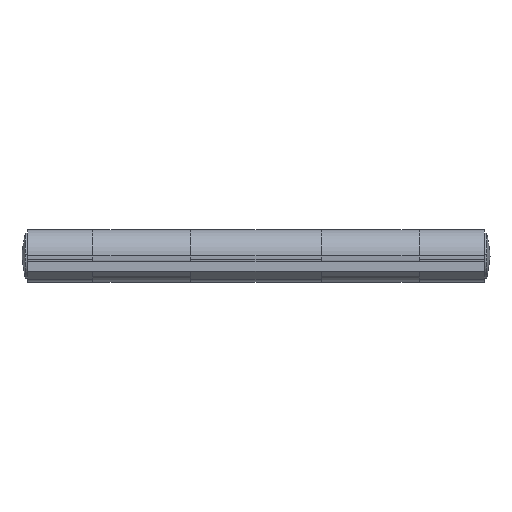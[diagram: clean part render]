
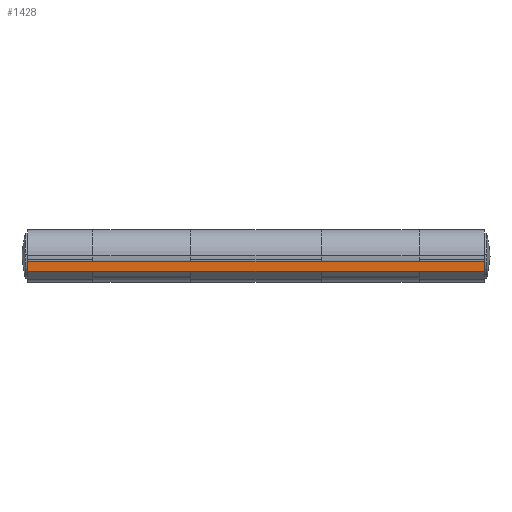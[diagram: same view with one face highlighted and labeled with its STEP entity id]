
A CAD part, top view. The second image highlights one B-rep face of the part: STEP entity #1428.
In plain terms, the highlighted planar face has unit normal (0, 0, 1) as drawn and (0, 0, -1) by its records, which use the part's own axes.
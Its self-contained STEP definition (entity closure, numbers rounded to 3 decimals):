
#6 = LINE ( 'NONE', #3082, #1043 ) ;
#71 = DIRECTION ( 'NONE',  ( 1., 0., 0. ) ) ;
#72 = VERTEX_POINT ( 'NONE', #1459 ) ;
#80 = CARTESIAN_POINT ( 'NONE',  ( 35., -1.5, -20.74 ) ) ;
#132 = PLANE ( 'NONE',  #3254 ) ;
#521 = LINE ( 'NONE', #1696, #2917 ) ;
#936 = CARTESIAN_POINT ( 'NONE',  ( 35., 0., -20.74 ) ) ;
#955 = DIRECTION ( 'NONE',  ( 0., 0., -1. ) ) ;
#987 = CARTESIAN_POINT ( 'NONE',  ( 35., 0.848, -20.74 ) ) ;
#993 = ORIENTED_EDGE ( 'NONE', *, *, #1737, .T. ) ;
#1016 = EDGE_CURVE ( 'NONE', #72, #1169, #6, .T. ) ;
#1043 = VECTOR ( 'NONE', #3352, 1000. ) ;
#1046 = LINE ( 'NONE', #987, #1992 ) ;
#1169 = VERTEX_POINT ( 'NONE', #936 ) ;
#1250 = CARTESIAN_POINT ( 'NONE',  ( 35., 0., -20.74 ) ) ;
#1280 = FACE_OUTER_BOUND ( 'NONE', #1954, .T. ) ;
#1352 = DIRECTION ( 'NONE',  ( 0., 1., 0. ) ) ;
#1428 = ADVANCED_FACE ( 'NONE', ( #1280 ), #132, .T. ) ;
#1459 = CARTESIAN_POINT ( 'NONE',  ( -35., 0., -20.74 ) ) ;
#1538 = ORIENTED_EDGE ( 'NONE', *, *, #1016, .T. ) ;
#1572 = LINE ( 'NONE', #3505, #2065 ) ;
#1696 = CARTESIAN_POINT ( 'NONE',  ( 35., -1.5, -20.74 ) ) ;
#1737 = EDGE_CURVE ( 'NONE', #1822, #72, #1572, .T. ) ;
#1822 = VERTEX_POINT ( 'NONE', #2429 ) ;
#1954 = EDGE_LOOP ( 'NONE', ( #3362, #3170, #993, #1538 ) ) ;
#1992 = VECTOR ( 'NONE', #2803, 1000. ) ;
#2065 = VECTOR ( 'NONE', #1352, 1000. ) ;
#2429 = CARTESIAN_POINT ( 'NONE',  ( -35., -1.5, -20.74 ) ) ;
#2627 = VERTEX_POINT ( 'NONE', #80 ) ;
#2803 = DIRECTION ( 'NONE',  ( 0., 1., 0. ) ) ;
#2806 = DIRECTION ( 'NONE',  ( -1., 0., 0. ) ) ;
#2897 = EDGE_CURVE ( 'NONE', #1822, #2627, #521, .T. ) ;
#2917 = VECTOR ( 'NONE', #71, 1000. ) ;
#3082 = CARTESIAN_POINT ( 'NONE',  ( 35., 0., -20.74 ) ) ;
#3170 = ORIENTED_EDGE ( 'NONE', *, *, #2897, .F. ) ;
#3254 = AXIS2_PLACEMENT_3D ( 'NONE', #1250, #955, #2806 ) ;
#3352 = DIRECTION ( 'NONE',  ( 1., 0., 0. ) ) ;
#3362 = ORIENTED_EDGE ( 'NONE', *, *, #3469, .F. ) ;
#3469 = EDGE_CURVE ( 'NONE', #2627, #1169, #1046, .T. ) ;
#3505 = CARTESIAN_POINT ( 'NONE',  ( -35., 0., -20.74 ) ) ;
